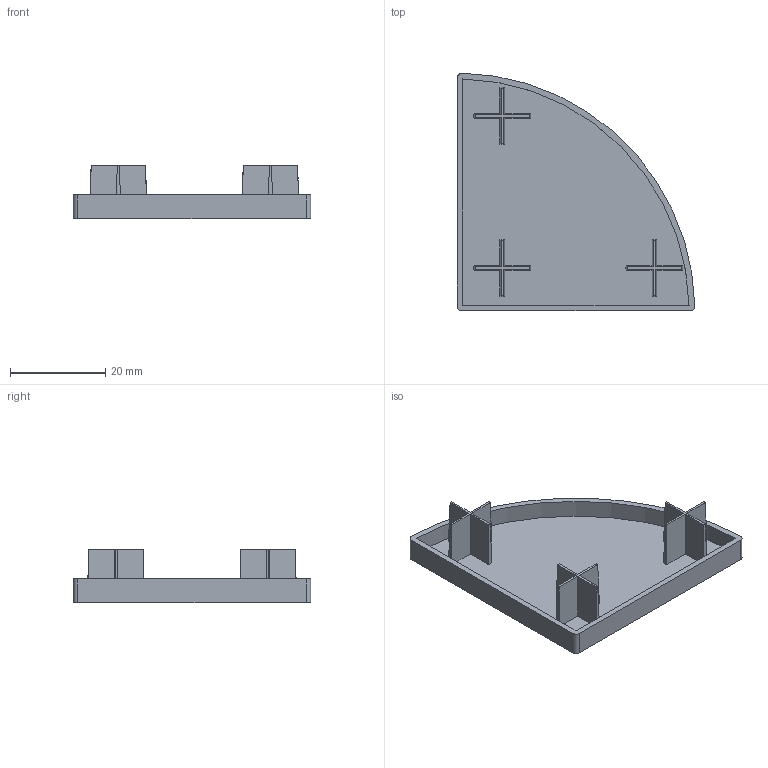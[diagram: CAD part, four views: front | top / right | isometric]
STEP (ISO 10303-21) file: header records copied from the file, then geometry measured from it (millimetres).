
FILE_DESCRIPTION (( 'STEP AP203' ), '1' );
FILE_NAME ('ECR5050-8.STEP', '2024-02-19T05:59:49', ( '' ), ( '' ), 'SwSTEP 2.0', 'SolidWorks 2022', '' );
FILE_SCHEMA (( 'CONFIG_CONTROL_DESIGN' ));
Length unit declared in the file: millimetre
Products named in the file (1): ECR5050-8
Bounding box: 49.99 x 49.99 x 11.2 mm (x, y, z)
Volume: 3649.6 mm3; surface area: 6821.8 mm2
Topology: 1 solids, 1 shells, 55 faces, 147 edges, 98 vertices
Faces by surface type: plane 34, cone 15, cylinder 6
Entity records: 1896 total; most frequent: CARTESIAN_POINT 445, ORIENTED_EDGE 294, DIRECTION 277, EDGE_CURVE 147, AXIS2_PLACEMENT_3D 98, VERTEX_POINT 98, VECTOR 81, LINE 81
